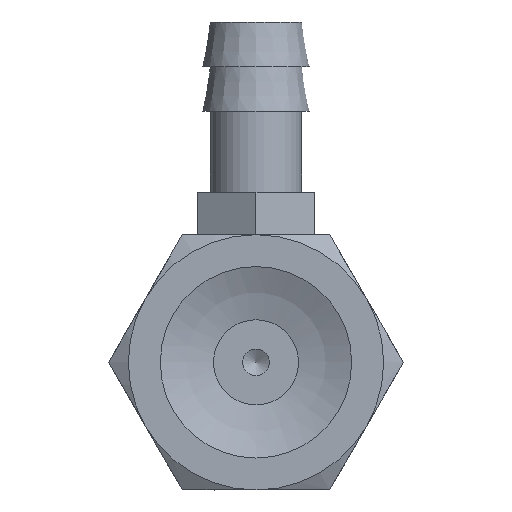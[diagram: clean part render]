
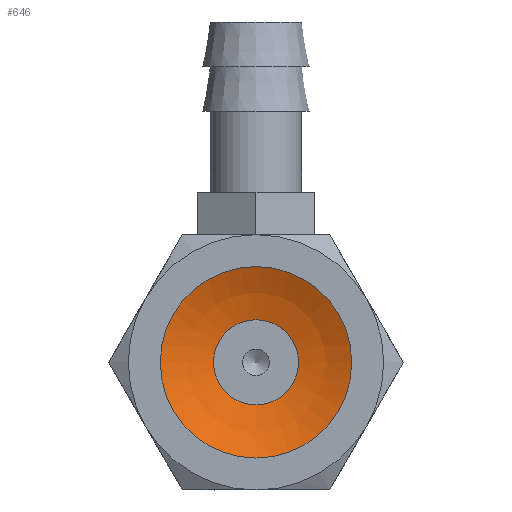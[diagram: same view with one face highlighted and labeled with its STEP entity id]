
A CAD part, front view. The second image highlights one B-rep face of the part: STEP entity #646.
In plain terms, the highlighted spherical face has radius 10.203 mm.
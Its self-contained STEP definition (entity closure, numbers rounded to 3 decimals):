
#646=ADVANCED_FACE('',(#999,#1000),#1001,.F.);
#999=FACE_OUTER_BOUND('',#1387,.T.);
#1000=FACE_OUTER_BOUND('',#1388,.T.);
#1001=SPHERICAL_SURFACE('',#1389,10.203);
#1387=EDGE_LOOP('',(#2296));
#1388=EDGE_LOOP('',(#2297));
#1389=AXIS2_PLACEMENT_3D('',#2298,#2299,#2300);
#2296=ORIENTED_EDGE('',*,*,#2636,.T.);
#2297=ORIENTED_EDGE('',*,*,#2649,.F.);
#2298=CARTESIAN_POINT('',(0.,-9.157,0.));
#2299=DIRECTION('',(0.0,-1.0,0.));
#2300=DIRECTION('',(1.0,0.0,0.0));
#2636=EDGE_CURVE('',#3038,#3038,#3039,.T.);
#2649=EDGE_CURVE('',#3064,#3064,#3065,.T.);
#3038=VERTEX_POINT('',#4060);
#3039=CIRCLE('',#4061,4.5);
#3064=VERTEX_POINT('',#4086);
#3065=CIRCLE('',#4087,2.);
#4060=CARTESIAN_POINT('',(0.0,0.,-4.5));
#4061=AXIS2_PLACEMENT_3D('',#4480,#4481,#4482);
#4086=CARTESIAN_POINT('',(0.0,0.848,-2.));
#4087=AXIS2_PLACEMENT_3D('',#4519,#4520,#4521);
#4480=CARTESIAN_POINT('',(0.0,0.,0.0));
#4481=DIRECTION('',(0.0,-1.0,0.));
#4482=DIRECTION('',(0.0,0.,-1.0));
#4519=CARTESIAN_POINT('',(0.0,0.848,0.0));
#4520=DIRECTION('',(0.0,-1.0,0.));
#4521=DIRECTION('',(0.0,0.,-1.0));
